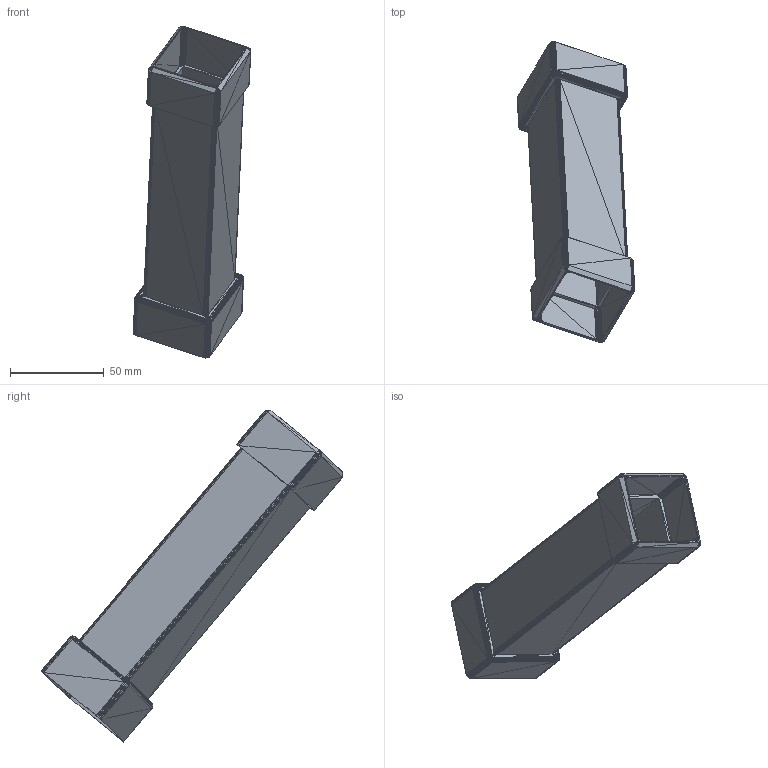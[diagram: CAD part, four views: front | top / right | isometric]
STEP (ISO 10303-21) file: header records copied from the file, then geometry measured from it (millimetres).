
FILE_DESCRIPTION(('Open CASCADE Model'),'2;1');
FILE_NAME('Open CASCADE Shape Model','2026-10-27T17:10:51',('Author'),( 'Open CASCADE'),'Open CASCADE STEP processor 7.9','Open CASCADE 7.9' ,'Unknown');
FILE_SCHEMA(('AUTOMOTIVE_DESIGN { 1 0 10303 214 1 1 1 1 }'));
Products named in the file (1): Open CASCADE STEP translator 7.9 1
Bounding box: 62.56 x 160.26 x 176.62 mm (x, y, z)
Volume: 59242.6 mm3; surface area: 56021.1 mm2
Topology: 1 solids, 1 shells, 1838 faces, 2774 edges, 936 vertices
Faces by surface type: plane 1838
Entity records: 72074 total; most frequent: DIRECTION 12000, CARTESIAN_POINT 11097, LINE 8322, VECTOR 8322, ORIENTED_EDGE 5548, PCURVE 5548, DEFINITIONAL_REPRESENTATION 5548, EDGE_CURVE 2774
